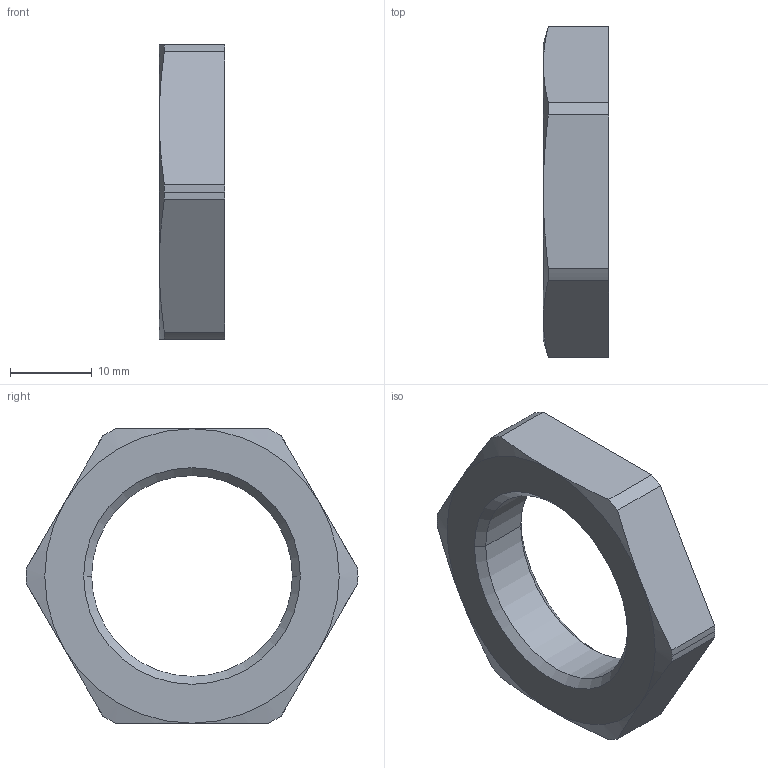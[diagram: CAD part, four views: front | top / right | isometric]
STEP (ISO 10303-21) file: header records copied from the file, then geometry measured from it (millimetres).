
FILE_DESCRIPTION((''),'2;1');
FILE_NAME('108711.0.stp','2007-11-06T08:52:32',(''),(''),'AutoCAD STEP 2000i','AutoCAD 2000i',', , ');
FILE_SCHEMA(('CONFIG_CONTROL_DESIGN'));
Length unit declared in the file: millimetre
Products named in the file (2): 108711.0; CHIAVE SMUSSX1036#0
Assembly tree (1 placements, depth 2):
  108711.0
    CHIAVE SMUSSX1036#0
Bounding box: 8 x 40.6 x 36 mm (x, y, z)
Volume: 5074.9 mm3; surface area: 2782.6 mm2
Topology: 1 solids, 1 shells, 28 faces, 68 edges, 42 vertices
Faces by surface type: cylinder 10, cone 10, plane 8
Entity records: 923 total; most frequent: CARTESIAN_POINT 164, DIRECTION 146, ORIENTED_EDGE 136, EDGE_CURVE 68, AXIS2_PLACEMENT_3D 60, VERTEX_POINT 42, CIRCLE 30, EDGE_LOOP 30
